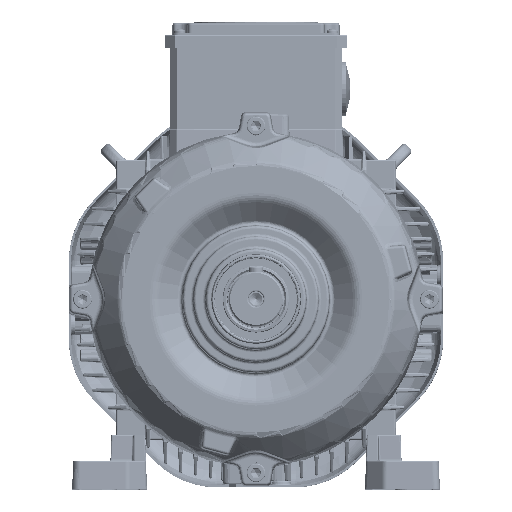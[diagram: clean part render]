
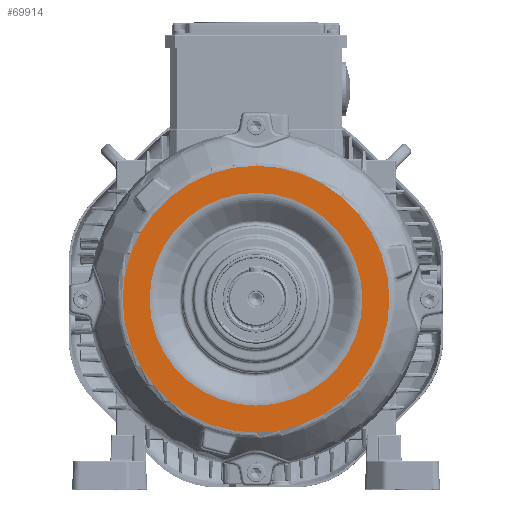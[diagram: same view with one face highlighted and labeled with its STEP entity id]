
A CAD part, top view. The second image highlights one B-rep face of the part: STEP entity #69914.
In plain terms, the highlighted planar face has unit normal (0, 0, 1).
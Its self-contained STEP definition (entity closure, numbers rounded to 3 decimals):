
#69914=ADVANCED_FACE('',(#79469,#79470),#77207,.F.);
#77207=PLANE('',#246856);
#79469=FACE_BOUND('',#90831,.T.);
#79470=FACE_BOUND('',#90832,.T.);
#90831=EDGE_LOOP('',(#139783));
#90832=EDGE_LOOP('',(#139784));
#139783=ORIENTED_EDGE('',*,*,#204025,.F.);
#139784=ORIENTED_EDGE('',*,*,#204096,.T.);
#175625=VERTEX_POINT('',#413532);
#175696=VERTEX_POINT('',#413855);
#204025=EDGE_CURVE('',#175625,#175625,#224323,.T.);
#204096=EDGE_CURVE('',#175696,#175696,#224334,.T.);
#224323=CIRCLE('',#246821,73.907);
#224334=CIRCLE('',#246855,92.668);
#246821=AXIS2_PLACEMENT_3D('',#413531,#299881,#299882);
#246855=AXIS2_PLACEMENT_3D('',#413854,#299977,#299978);
#246856=AXIS2_PLACEMENT_3D('',#413856,#299979,#299980);
#299881=DIRECTION('',(0.,0.,1.));
#299882=DIRECTION('',(-1.,0.,0.));
#299977=DIRECTION('',(0.,0.,1.));
#299978=DIRECTION('',(-1.,0.,0.));
#299979=DIRECTION('',(0.,0.,-1.));
#299980=DIRECTION('',(1.,0.,0.));
#413531=CARTESIAN_POINT('',(-0.001,-0.004,58.495));
#413532=CARTESIAN_POINT('',(-73.909,-0.004,58.496));
#413854=CARTESIAN_POINT('',(-0.001,-0.004,58.495));
#413855=CARTESIAN_POINT('',(-92.67,-0.004,58.496));
#413856=CARTESIAN_POINT('',(16.091,91.256,58.49));
